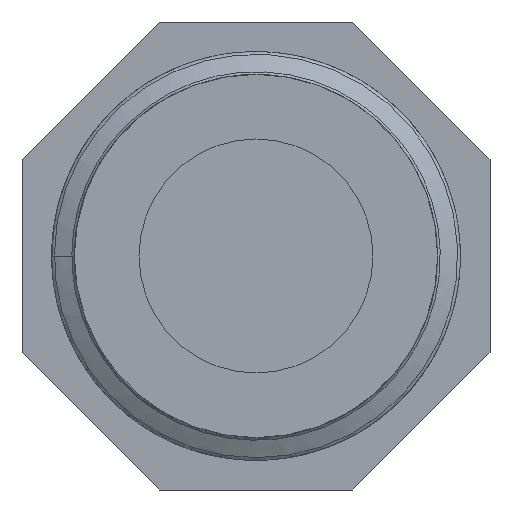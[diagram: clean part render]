
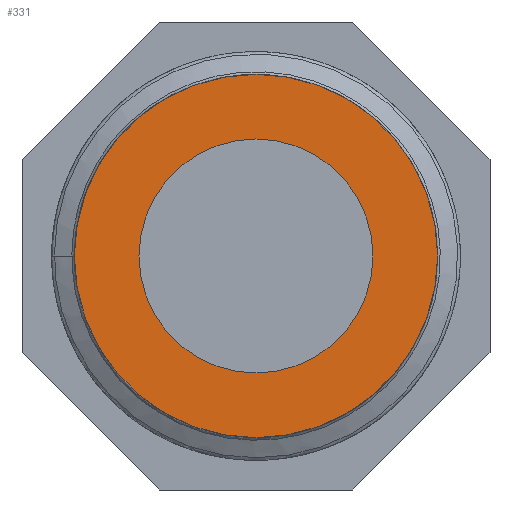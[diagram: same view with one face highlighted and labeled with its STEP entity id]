
A CAD part, front view. The second image highlights one B-rep face of the part: STEP entity #331.
In plain terms, the highlighted planar face has unit normal (0, -1, 0).
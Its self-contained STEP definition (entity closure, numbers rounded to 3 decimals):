
#17=FACE_BOUND('',#80,.T.);
#31=PLANE('',#354);
#36=CIRCLE('',#340,9.316);
#38=CIRCLE('',#353,6.);
#57=FACE_OUTER_BOUND('',#79,.T.);
#79=EDGE_LOOP('',(#298));
#80=EDGE_LOOP('',(#299));
#155=VERTEX_POINT('',#2606);
#175=VERTEX_POINT('',#3938);
#193=EDGE_CURVE('',#155,#155,#36,.T.);
#219=EDGE_CURVE('',#175,#175,#38,.T.);
#298=ORIENTED_EDGE('',*,*,#193,.T.);
#299=ORIENTED_EDGE('',*,*,#219,.T.);
#331=ADVANCED_FACE('',(#57,#17),#31,.F.);
#340=AXIS2_PLACEMENT_3D('',#3884,#371,#372);
#353=AXIS2_PLACEMENT_3D('',#3939,#421,#422);
#354=AXIS2_PLACEMENT_3D('',#3940,#423,#424);
#371=DIRECTION('center_axis',(0.,-1.,0.));
#372=DIRECTION('ref_axis',(1.,0.,0.));
#421=DIRECTION('center_axis',(0.,1.,0.));
#422=DIRECTION('ref_axis',(1.,0.,0.));
#423=DIRECTION('center_axis',(0.,1.,0.));
#424=DIRECTION('ref_axis',(0.,0.,1.));
#2606=CARTESIAN_POINT('',(-9.316,0.,0.));
#3884=CARTESIAN_POINT('Origin',(0.,0.,0.));
#3938=CARTESIAN_POINT('',(-6.,0.,0.));
#3939=CARTESIAN_POINT('Origin',(0.,0.,0.));
#3940=CARTESIAN_POINT('Origin',(0.,0.,0.));
